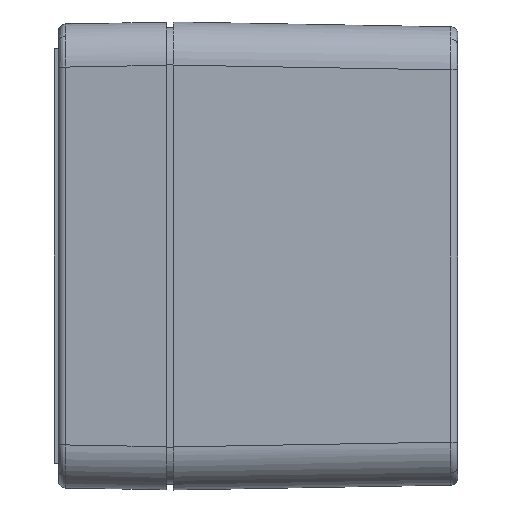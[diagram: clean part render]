
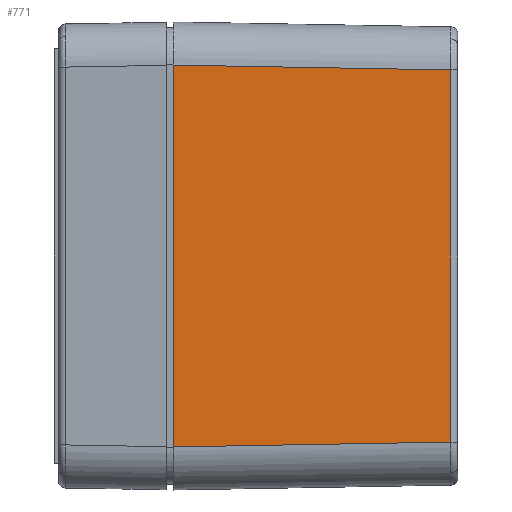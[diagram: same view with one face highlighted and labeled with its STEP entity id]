
A CAD part, left-side view. The second image highlights one B-rep face of the part: STEP entity #771.
In plain terms, the highlighted planar face has unit normal (-1, -0.018, 0).
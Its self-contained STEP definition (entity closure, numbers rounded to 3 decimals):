
#771 = ADVANCED_FACE ( 'NONE', ( #15438 ), #4325, .T. ) ;
#1050 = DIRECTION ( 'NONE',  ( -0.017, 1., 0.017 ) ) ;
#1155 = CARTESIAN_POINT ( 'NONE',  ( -57.602, 0.105, 26.603 ) ) ;
#1289 = LINE ( 'NONE', #3226, #5678 ) ;
#1725 = CARTESIAN_POINT ( 'NONE',  ( -57.582, -1.033, -26.583 ) ) ;
#2001 = DIRECTION ( 'NONE',  ( 0.017, -1., 0. ) ) ;
#2174 = VERTEX_POINT ( 'NONE', #9018 ) ;
#2563 = VECTOR ( 'NONE', #1050, 1000. ) ;
#2577 = EDGE_CURVE ( 'NONE', #11739, #10090, #1289, .T. ) ;
#3226 = CARTESIAN_POINT ( 'NONE',  ( -56.908, -39.617, 25.892 ) ) ;
#4095 = ORIENTED_EDGE ( 'NONE', *, *, #13270, .T. ) ;
#4325 = PLANE ( 'NONE',  #7947 ) ;
#4392 = DIRECTION ( 'NONE',  ( 0., 0., 1. ) ) ;
#5209 = ORIENTED_EDGE ( 'NONE', *, *, #15253, .F. ) ;
#5678 = VECTOR ( 'NONE', #4392, 1000. ) ;
#6873 = CARTESIAN_POINT ( 'NONE',  ( -57.583, -1., -26.583 ) ) ;
#7147 = ORIENTED_EDGE ( 'NONE', *, *, #2577, .T. ) ;
#7261 = DIRECTION ( 'NONE',  ( 0., 0., 1. ) ) ;
#7533 = EDGE_CURVE ( 'NONE', #10090, #2174, #12658, .T. ) ;
#7947 = AXIS2_PLACEMENT_3D ( 'NONE', #14022, #15222, #2001 ) ;
#9018 = CARTESIAN_POINT ( 'NONE',  ( -57.583, -1., 26.583 ) ) ;
#9353 = ORIENTED_EDGE ( 'NONE', *, *, #7533, .T. ) ;
#9574 = VECTOR ( 'NONE', #7261, 1000. ) ;
#10090 = VERTEX_POINT ( 'NONE', #12167 ) ;
#10363 = EDGE_LOOP ( 'NONE', ( #5209, #4095, #7147, #9353 ) ) ;
#10922 = CARTESIAN_POINT ( 'NONE',  ( -57.583, -1., 32.6 ) ) ;
#11008 = VERTEX_POINT ( 'NONE', #6873 ) ;
#11739 = VERTEX_POINT ( 'NONE', #12463 ) ;
#12167 = CARTESIAN_POINT ( 'NONE',  ( -56.908, -39.617, 25.909 ) ) ;
#12227 = LINE ( 'NONE', #10922, #9574 ) ;
#12289 = VECTOR ( 'NONE', #14901, 1000. ) ;
#12463 = CARTESIAN_POINT ( 'NONE',  ( -56.908, -39.617, -25.909 ) ) ;
#12658 = LINE ( 'NONE', #1155, #2563 ) ;
#13270 = EDGE_CURVE ( 'NONE', #11008, #11739, #15091, .T. ) ;
#14022 = CARTESIAN_POINT ( 'NONE',  ( -57.6, 0., 32.6 ) ) ;
#14901 = DIRECTION ( 'NONE',  ( 0.017, -1., 0.017 ) ) ;
#15091 = LINE ( 'NONE', #1725, #12289 ) ;
#15222 = DIRECTION ( 'NONE',  ( -1., -0.017, 0. ) ) ;
#15253 = EDGE_CURVE ( 'NONE', #11008, #2174, #12227, .T. ) ;
#15438 = FACE_OUTER_BOUND ( 'NONE', #10363, .T. ) ;
